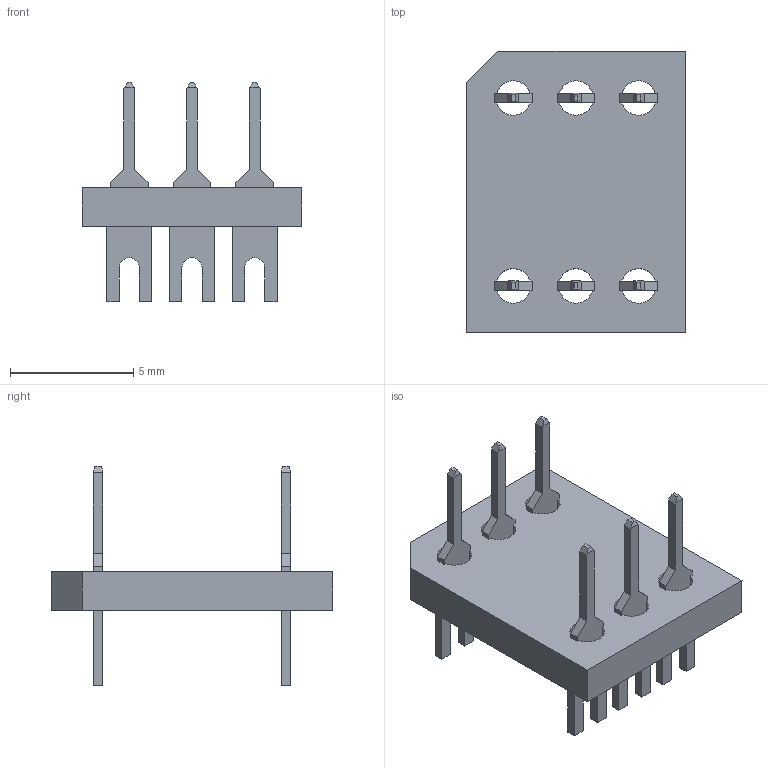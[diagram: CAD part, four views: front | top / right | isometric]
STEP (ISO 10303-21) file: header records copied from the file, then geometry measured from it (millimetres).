
FILE_DESCRIPTION(/* description */ (''),/* implementation_level */ '2;1');
FILE_NAME(/* name */ '\\Snap1\dwgs\Customer 3D Models\702\702-5162 Customer model.stp',/* time_stamp */ '2017-01-04T16:09:50+00:00',/* author */ ('paulk'),/* organization */ (''),/* preprocessor_version */ 'ST-DEVELOPER v15.2',/* originating_system */ 'Autodesk Inventor 2014',/* authorisation */ '');
FILE_SCHEMA (('CONFIG_CONTROL_DESIGN'));
Length unit declared in the file: millimetre
Products named in the file (1): 702-5162 Customer model
Bounding box: 8.89 x 11.43 x 8.89 mm (x, y, z)
Volume: 164.2 mm3; surface area: 429.3 mm2
Topology: 1 solids, 1 shells, 151 faces, 483 edges, 322 vertices
Faces by surface type: plane 127, cylinder 24
Entity records: 5499 total; most frequent: ORIENTED_EDGE 966, CARTESIAN_POINT 957, DIRECTION 835, EDGE_CURVE 483, LINE 435, VECTOR 435, VERTEX_POINT 322, AXIS2_PLACEMENT_3D 200
